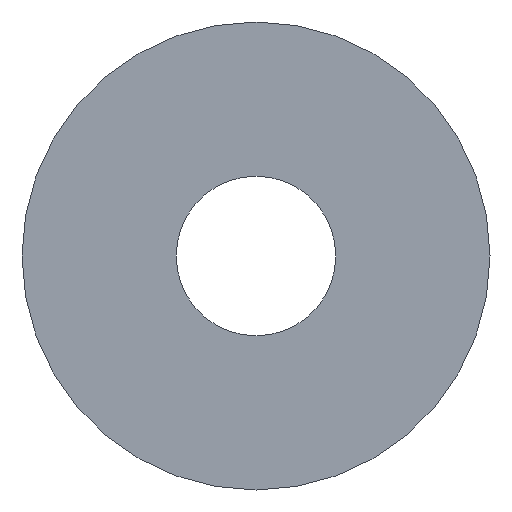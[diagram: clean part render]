
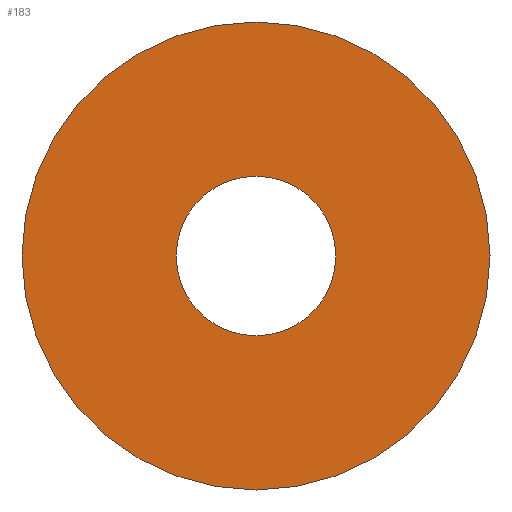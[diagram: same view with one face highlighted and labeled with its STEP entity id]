
A CAD part, left-side view. The second image highlights one B-rep face of the part: STEP entity #183.
In plain terms, the highlighted planar face has unit normal (-1, 0, 0).
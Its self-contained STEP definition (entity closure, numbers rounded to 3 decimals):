
#22 = VERTEX_POINT('',#23);
#23 = CARTESIAN_POINT('',(28.01,11.,0.));
#32 = CYLINDRICAL_SURFACE('',#33,11.);
#33 = AXIS2_PLACEMENT_3D('',#34,#35,#36);
#34 = CARTESIAN_POINT('',(28.01,0.,0.));
#35 = DIRECTION('',(-1.,-0.,-0.));
#36 = DIRECTION('',(0.,1.,0.));
#79 = EDGE_CURVE('',#22,#22,#80,.T.);
#80 = SURFACE_CURVE('',#81,(#86,#93),.PCURVE_S1.);
#81 = CIRCLE('',#82,11.);
#82 = AXIS2_PLACEMENT_3D('',#83,#84,#85);
#83 = CARTESIAN_POINT('',(28.01,0.,0.));
#84 = DIRECTION('',(1.,0.,0.));
#85 = DIRECTION('',(0.,1.,0.));
#86 = PCURVE('',#32,#87);
#87 = DEFINITIONAL_REPRESENTATION('',(#88),#92);
#88 = LINE('',#89,#90);
#89 = CARTESIAN_POINT('',(-0.,0.));
#90 = VECTOR('',#91,1.);
#91 = DIRECTION('',(-1.,0.));
#92 = ( GEOMETRIC_REPRESENTATION_CONTEXT(2) 
PARAMETRIC_REPRESENTATION_CONTEXT() REPRESENTATION_CONTEXT('2D SPACE',''
  ) );
#93 = PCURVE('',#94,#99);
#94 = PLANE('',#95);
#95 = AXIS2_PLACEMENT_3D('',#96,#97,#98);
#96 = CARTESIAN_POINT('',(28.01,0.,0.)
  );
#97 = DIRECTION('',(1.,0.,0.));
#98 = DIRECTION('',(-0.,0.,1.));
#99 = DEFINITIONAL_REPRESENTATION('',(#100),#104);
#100 = CIRCLE('',#101,11.);
#101 = AXIS2_PLACEMENT_2D('',#102,#103);
#102 = CARTESIAN_POINT('',(0.,0.));
#103 = DIRECTION('',(0.,-1.));
#104 = ( GEOMETRIC_REPRESENTATION_CONTEXT(2) 
PARAMETRIC_REPRESENTATION_CONTEXT() REPRESENTATION_CONTEXT('2D SPACE',''
  ) );
#110 = VERTEX_POINT('',#111);
#111 = CARTESIAN_POINT('',(28.01,3.75,0.));
#120 = CYLINDRICAL_SURFACE('',#121,3.75);
#121 = AXIS2_PLACEMENT_3D('',#122,#123,#124);
#122 = CARTESIAN_POINT('',(28.01,0.,0.)
  );
#123 = DIRECTION('',(-1.,-0.,-0.));
#124 = DIRECTION('',(0.,1.,0.));
#162 = EDGE_CURVE('',#110,#110,#163,.T.);
#163 = SURFACE_CURVE('',#164,(#169,#176),.PCURVE_S1.);
#164 = CIRCLE('',#165,3.75);
#165 = AXIS2_PLACEMENT_3D('',#166,#167,#168);
#166 = CARTESIAN_POINT('',(28.01,0.,0.)
  );
#167 = DIRECTION('',(1.,0.,0.));
#168 = DIRECTION('',(0.,1.,0.));
#169 = PCURVE('',#120,#170);
#170 = DEFINITIONAL_REPRESENTATION('',(#171),#175);
#171 = LINE('',#172,#173);
#172 = CARTESIAN_POINT('',(-0.,0.));
#173 = VECTOR('',#174,1.);
#174 = DIRECTION('',(-1.,0.));
#175 = ( GEOMETRIC_REPRESENTATION_CONTEXT(2) 
PARAMETRIC_REPRESENTATION_CONTEXT() REPRESENTATION_CONTEXT('2D SPACE',''
  ) );
#176 = PCURVE('',#94,#177);
#177 = DEFINITIONAL_REPRESENTATION('',(#178),#182);
#178 = CIRCLE('',#179,3.75);
#179 = AXIS2_PLACEMENT_2D('',#180,#181);
#180 = CARTESIAN_POINT('',(0.,0.));
#181 = DIRECTION('',(0.,-1.));
#182 = ( GEOMETRIC_REPRESENTATION_CONTEXT(2) 
PARAMETRIC_REPRESENTATION_CONTEXT() REPRESENTATION_CONTEXT('2D SPACE',''
  ) );
#183 = ADVANCED_FACE('',(#184,#187),#94,.F.);
#184 = FACE_BOUND('',#185,.F.);
#185 = EDGE_LOOP('',(#186));
#186 = ORIENTED_EDGE('',*,*,#79,.T.);
#187 = FACE_BOUND('',#188,.F.);
#188 = EDGE_LOOP('',(#189));
#189 = ORIENTED_EDGE('',*,*,#162,.F.);
